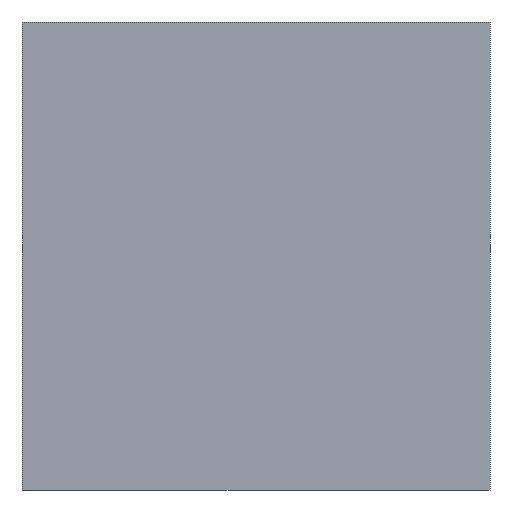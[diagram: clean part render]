
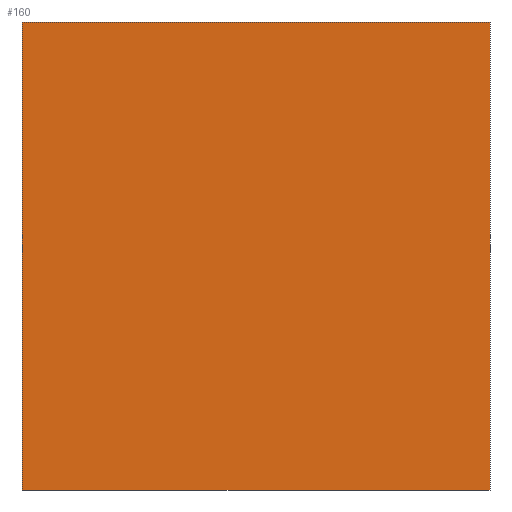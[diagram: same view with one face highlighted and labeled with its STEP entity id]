
A CAD part, front view. The second image highlights one B-rep face of the part: STEP entity #160.
In plain terms, the highlighted planar face has unit normal (0, -1, 0).
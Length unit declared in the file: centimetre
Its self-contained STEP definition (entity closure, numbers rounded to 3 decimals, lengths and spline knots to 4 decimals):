
#6 = EDGE_CURVE ( 'NONE', #230, #250, #319, .T. ) ;
#39 = CARTESIAN_POINT ( 'NONE',  ( 1000., 0., 1000. ) ) ;
#43 = VECTOR ( 'NONE', #353, 100. ) ;
#75 = CARTESIAN_POINT ( 'NONE',  ( 1000., 0., 1000. ) ) ;
#77 = ORIENTED_EDGE ( 'NONE', *, *, #410, .T. ) ;
#94 = VECTOR ( 'NONE', #220, 100. ) ;
#100 = ORIENTED_EDGE ( 'NONE', *, *, #540, .F. ) ;
#113 = DIRECTION ( 'NONE',  ( 0., 0., 1. ) ) ;
#134 = CARTESIAN_POINT ( 'NONE',  ( 0., 0., 1000. ) ) ;
#140 = LINE ( 'NONE', #134, #43 ) ;
#149 = PLANE ( 'NONE',  #240 ) ;
#160 = ADVANCED_FACE ( 'NONE', ( #241 ), #149, .F. ) ;
#190 = VERTEX_POINT ( 'NONE', #75 ) ;
#202 = EDGE_CURVE ( 'NONE', #190, #250, #209, .T. ) ;
#209 = LINE ( 'NONE', #39, #94 ) ;
#219 = LINE ( 'NONE', #532, #260 ) ;
#220 = DIRECTION ( 'NONE',  ( 0., 0., -1. ) ) ;
#230 = VERTEX_POINT ( 'NONE', #424 ) ;
#240 = AXIS2_PLACEMENT_3D ( 'NONE', #412, #322, #113 ) ;
#241 = FACE_OUTER_BOUND ( 'NONE', #278, .T. ) ;
#250 = VERTEX_POINT ( 'NONE', #287 ) ;
#260 = VECTOR ( 'NONE', #357, 100. ) ;
#278 = EDGE_LOOP ( 'NONE', ( #344, #409, #100, #77 ) ) ;
#287 = CARTESIAN_POINT ( 'NONE',  ( 1000., 0., 0. ) ) ;
#304 = DIRECTION ( 'NONE',  ( 1., 0., 0. ) ) ;
#312 = CARTESIAN_POINT ( 'NONE',  ( 0., 0., 1000. ) ) ;
#319 = LINE ( 'NONE', #393, #494 ) ;
#322 = DIRECTION ( 'NONE',  ( 0., 1., 0. ) ) ;
#344 = ORIENTED_EDGE ( 'NONE', *, *, #6, .T. ) ;
#353 = DIRECTION ( 'NONE',  ( 0., 0., -1. ) ) ;
#357 = DIRECTION ( 'NONE',  ( 1., 0., 0. ) ) ;
#393 = CARTESIAN_POINT ( 'NONE',  ( 0., 0., 0. ) ) ;
#409 = ORIENTED_EDGE ( 'NONE', *, *, #202, .F. ) ;
#410 = EDGE_CURVE ( 'NONE', #413, #230, #140, .T. ) ;
#412 = CARTESIAN_POINT ( 'NONE',  ( 0., 0., 1000. ) ) ;
#413 = VERTEX_POINT ( 'NONE', #312 ) ;
#424 = CARTESIAN_POINT ( 'NONE',  ( 0., 0., 0. ) ) ;
#494 = VECTOR ( 'NONE', #304, 100. ) ;
#532 = CARTESIAN_POINT ( 'NONE',  ( 0., 0., 1000. ) ) ;
#540 = EDGE_CURVE ( 'NONE', #413, #190, #219, .T. ) ;
